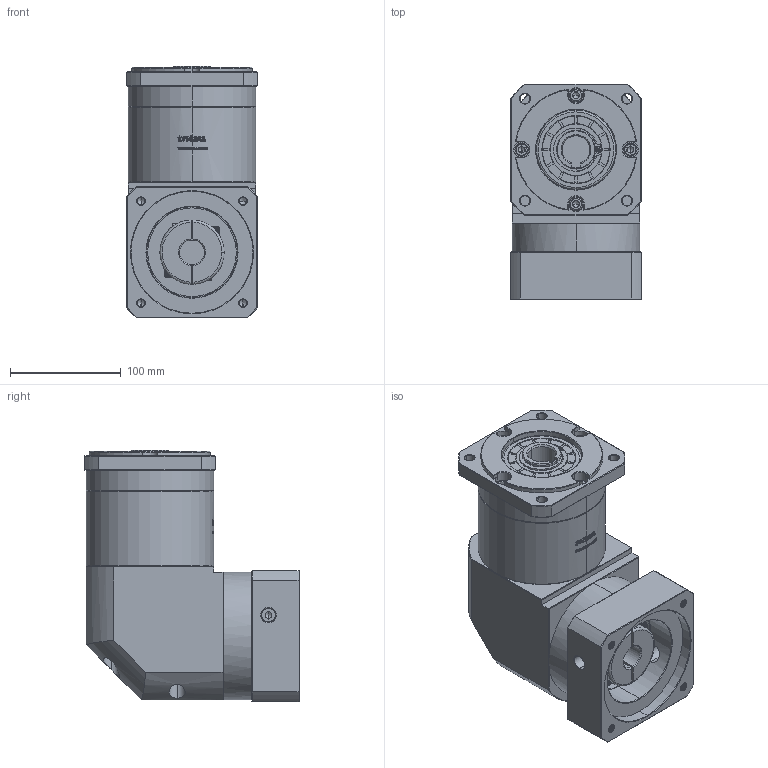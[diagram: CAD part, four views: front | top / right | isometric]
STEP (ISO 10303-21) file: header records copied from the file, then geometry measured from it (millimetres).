
FILE_DESCRIPTION (( 'STEP AP214' ), '1' );
FILE_NAME ('ZFR120A-K25-L2-22-110-130-M8.step', '2023-03-08T08:31:28', ( '' ), ( '' ), 'SwSTEP 2.0', 'SolidWorks 2016', '' );
FILE_SCHEMA (( 'AUTOMOTIVE_DESIGN' ));
Length unit declared in the file: millimetre
Products named in the file (1): ZFR120A-K25-L2-22-110-130-M8
Bounding box: 118 x 193.9 x 226.5 mm (x, y, z)
Volume: 3123566.4 mm3; surface area: 252515.8 mm2
Topology: 6 solids, 6 shells, 2815 faces, 7517 edges, 4847 vertices
Faces by surface type: plane 1477, bspline 598, cylinder 401, cone 331, torus 8
Entity records: 152383 total; most frequent: CARTESIAN_POINT 56848, ORIENTED_EDGE 14978, DIRECTION 10908, EDGE_CURVE 7489, VERTEX_POINT 4847, LINE 4696, VECTOR 4696, AXIS2_PLACEMENT_3D 3106
